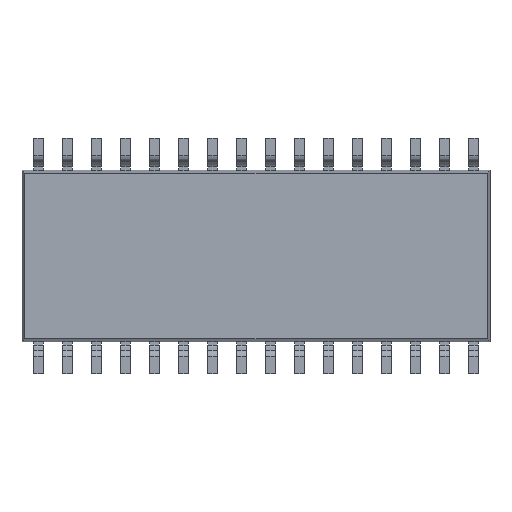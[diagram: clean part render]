
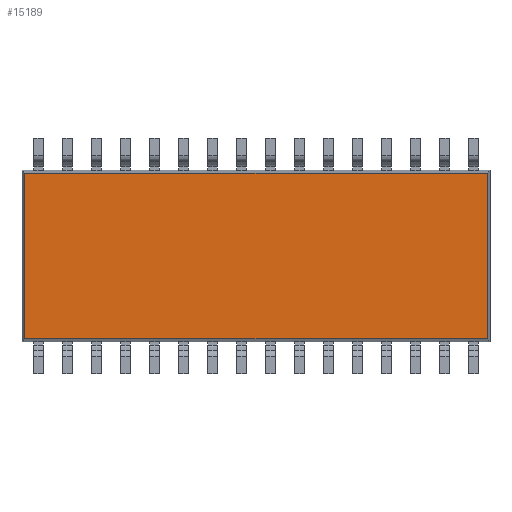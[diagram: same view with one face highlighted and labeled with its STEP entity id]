
A CAD part, front view. The second image highlights one B-rep face of the part: STEP entity #15189.
In plain terms, the highlighted planar face has unit normal (0, -1, 0).
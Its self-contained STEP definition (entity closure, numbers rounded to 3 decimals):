
#15150 = CARTESIAN_POINT ( 'NONE',  ( 10.135, 0.1, -3.635 ) ) ;
#15151 = VERTEX_POINT ( 'NONE', #15150 ) ;
#15152 = CARTESIAN_POINT ( 'NONE',  ( 10.135, 0.1, 3.635 ) ) ;
#15153 = VERTEX_POINT ( 'NONE', #15152 ) ;
#15154 = CARTESIAN_POINT ( 'NONE',  ( 10.135, 0.1, 0. ) ) ;
#15155 = DIRECTION ( 'NONE',  ( 0., 0., 1. ) ) ;
#15156 = VECTOR ( 'NONE', #15155, 1000. ) ;
#15157 = LINE ( 'NONE', #15154, #15156 ) ;
#15158 = EDGE_CURVE ( 'NONE', #15151, #15153, #15157, .T. ) ;
#15159 = ORIENTED_EDGE ( 'NONE', *, *, #15158, .T. ) ;
#15160 = CARTESIAN_POINT ( 'NONE',  ( -10.135, 0.1, 3.635 ) ) ;
#15161 = VERTEX_POINT ( 'NONE', #15160 ) ;
#15162 = CARTESIAN_POINT ( 'NONE',  ( 0., 0.1, 3.635 ) ) ;
#15163 = DIRECTION ( 'NONE',  ( -1., 0., 0. ) ) ;
#15164 = VECTOR ( 'NONE', #15163, 1000. ) ;
#15165 = LINE ( 'NONE', #15162, #15164 ) ;
#15166 = EDGE_CURVE ( 'NONE', #15153, #15161, #15165, .T. ) ;
#15167 = ORIENTED_EDGE ( 'NONE', *, *, #15166, .T. ) ;
#15168 = CARTESIAN_POINT ( 'NONE',  ( -10.135, 0.1, -3.635 ) ) ;
#15169 = VERTEX_POINT ( 'NONE', #15168 ) ;
#15170 = CARTESIAN_POINT ( 'NONE',  ( -10.135, 0.1, 0. ) ) ;
#15171 = DIRECTION ( 'NONE',  ( 0., 0., -1. ) ) ;
#15172 = VECTOR ( 'NONE', #15171, 1000. ) ;
#15173 = LINE ( 'NONE', #15170, #15172 ) ;
#15174 = EDGE_CURVE ( 'NONE', #15161, #15169, #15173, .T. ) ;
#15175 = ORIENTED_EDGE ( 'NONE', *, *, #15174, .T. ) ;
#15176 = CARTESIAN_POINT ( 'NONE',  ( 0., 0.1, -3.635 ) ) ;
#15177 = DIRECTION ( 'NONE',  ( 1., 0., 0. ) ) ;
#15178 = VECTOR ( 'NONE', #15177, 1000. ) ;
#15179 = LINE ( 'NONE', #15176, #15178 ) ;
#15180 = EDGE_CURVE ( 'NONE', #15169, #15151, #15179, .T. ) ;
#15181 = ORIENTED_EDGE ( 'NONE', *, *, #15180, .T. ) ;
#15182 = EDGE_LOOP ( 'NONE', ( #15159, #15167, #15175, #15181 ) ) ;
#15183 = FACE_OUTER_BOUND ( 'NONE', #15182, .T. ) ;
#15184 = CARTESIAN_POINT ( 'NONE',  ( 0., 0.1, 0. ) ) ;
#15185 = DIRECTION ( 'NONE',  ( 0., 1., 0. ) ) ;
#15186 = DIRECTION ( 'NONE',  ( 0., 0., 1. ) ) ;
#15187 = AXIS2_PLACEMENT_3D ( 'NONE', #15184, #15185, #15186 ) ;
#15188 = PLANE ( 'NONE', #15187 ) ;
#15189 = ADVANCED_FACE ( 'NONE', ( #15183 ), #15188, .F. ) ;
